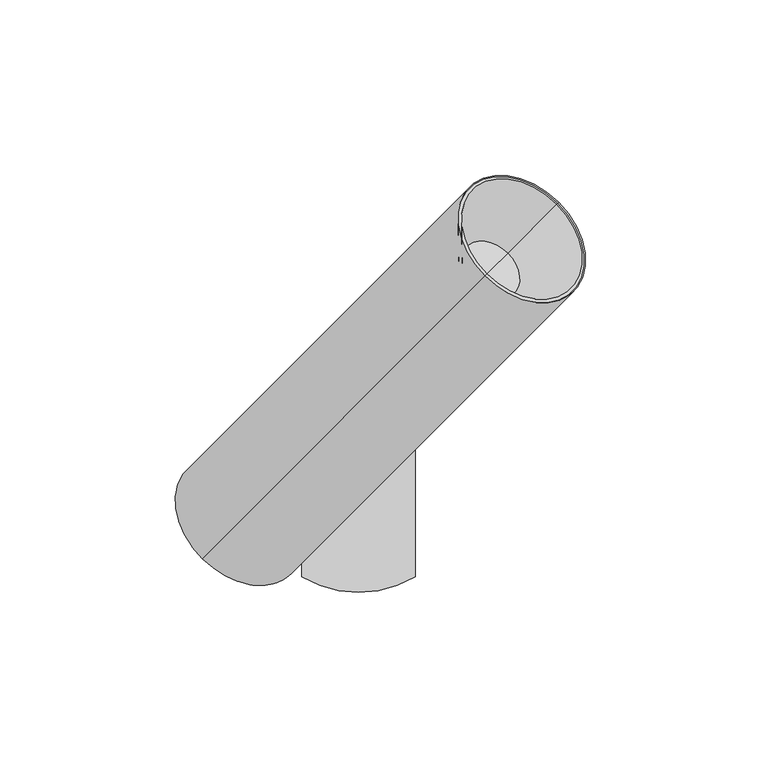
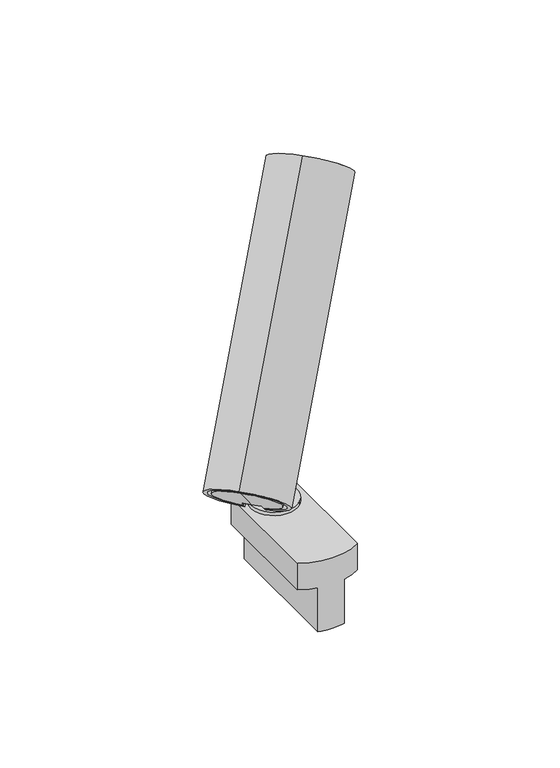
"""IFC4 building model written with IfcOpenShell, lengths in millimetres: light fixture geometry, PIPES T XS : 490lm 7,8W 930 38°."""

from ifc_helpers import new_model, si_unit, point, frame, frame_2d, origin, origin_2d, place, context, project, spatial, polyline, circle_curve, trimmed, segment, composite_curve, outline, extrude, source, transform, mapped, element, save
from ifc_brep_helpers import plane_surface, cylinder_surface, revolved_surface, advanced_brep


def light_fixture_d9bcc872(model_context):
    return source(origin(), model_context, "Body", "SolidModel", [
        extrude(outline(composite_curve([segment(polyline([(-39.7303383, 0.0), (-39.7303383, 7.9999999), (-36.7303383, 7.9999999), (-36.7303383, 10.0), (21.31827, 10.0), (21.31827, 2.0000001)]), True, "CONTINUOUS"), segment(trimmed(circle_curve(frame_2d((15.691322, 2.0000001)), 5.626948), [point((21.31827, 2.0000001))], [point((15.691322, -3.626948))], False, "CARTESIAN"), True, "CONTINUOUS"), segment(polyline([(15.691322, -3.626948), (9.8735653, -3.626948)]), True, "CONTINUOUS"), segment(trimmed(circle_curve(frame_2d((17.7182036, 2.2388678)), 9.7952104), [point((9.8735653, -3.626948))], [point((8.1822916, 0.0))], False, "CARTESIAN"), True, "CONTINUOUS"), segment(polyline([(8.1822916, 0.0), (-39.7303383, 0.0)]), True, "CONTINUOUS")], self_intersect=False)), frame((0.0, -7.0710678, 56.5303383), z_axis=(-0.7071067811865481, 0.707106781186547, 0.0), x_axis=(0.0, 0.0, 1.0)), (0.0, 0.0, 1.0), 10.0),
        extrude(outline(composite_curve([segment(trimmed(circle_curve(origin_2d(), 12.5), [point((8.8388348, -8.8388348))], [point((-8.8388348, 8.8388348))], False, "CARTESIAN"), True, "CONTINUOUS"), segment(trimmed(circle_curve(origin_2d(), 12.5), [point((-8.8388348, 8.8388348))], [point((8.8388348, -8.8388348))], False, "CARTESIAN"), True, "CONTINUOUS")], self_intersect=False)), frame((0.0, 0.0, 15.0), z_axis=(0.0, 0.0, 1.0), x_axis=(1.0, 0.0, 0.0)), (0.0, 0.0, 1.0), 1.8),
        advanced_brep(
        [(-7.1153658, 15.2862846, -25.0), (7.1153658, 15.2862846, -25.0), (7.1153658, -53.3498174, -25.0), (-7.1153658, -53.3498174, -25.0), (-16.1153658, -49.7317664, 15.0), (16.1153658, -49.7317664, 15.0), (16.1153658, 11.6682336, 15.0), (-16.1153658, 11.6682336, 15.0), (-16.1153658, 11.6682336, 0.0), (-16.1153658, -49.7317664, 0.0), (16.1153658, 11.6682336, 0.0), (7.1153658, 15.2862846, 0.0), (-7.1153658, 15.2862846, 0.0), (16.1153658, -49.7317664, 0.0), (-7.1153658, -53.3498174, 0.0), (7.1153658, -53.3498174, 0.0)],
        [
            (0, 1, circle_curve(frame((0.0, -15.4162786, -25.0), z_axis=(0.0, 0.0, -1.0), x_axis=(1.0, 0.0, 0.0)), 31.5162786)),
            (1, 2),
            (2, 3, circle_curve(frame((0.0, -22.6472542, -25.0), z_axis=(0.0, 0.0, -1.0), x_axis=(1.0, 0.0, 0.0)), 31.5162786)),
            (3, 0),
            (4, 5, circle_curve(frame((0.0, -22.6472542, 15.0), z_axis=(0.0, 0.0, 1.0), x_axis=(1.0, 0.0, 0.0)), 31.5162786)),
            (5, 6),
            (6, 7, circle_curve(frame((0.0, -15.4162786, 15.0), z_axis=(0.0, 0.0, 1.0), x_axis=(1.0, 0.0, 0.0)), 31.5162786)),
            (7, 4),
            (7, 8),
            (8, 9),
            (9, 4),
            (6, 10),
            (10, 11, circle_curve(frame((0.0, -15.4162786, 0.0), z_axis=(0.0, 0.0, 1.0), x_axis=(1.0, 0.0, 0.0)), 31.5162786)),
            (11, 1),
            (0, 12),
            (12, 8, circle_curve(frame((0.0, -15.4162786, 0.0), z_axis=(0.0, 0.0, 1.0), x_axis=(1.0, 0.0, 0.0)), 31.5162786)),
            (5, 13),
            (13, 10),
            (9, 14, circle_curve(frame((0.0, -22.6472542, 0.0), z_axis=(0.0, 0.0, 1.0), x_axis=(1.0, 0.0, 0.0)), 31.5162786)),
            (14, 3),
            (2, 15),
            (15, 13, circle_curve(frame((0.0, -22.6472542, 0.0), z_axis=(0.0, 0.0, 1.0), x_axis=(1.0, 0.0, 0.0)), 31.5162786)),
            (12, 14),
            (15, 11),
        ],
        [
            plane_surface(frame((-16.1153658, 11.6883244, -25.0), z_axis=(0.0, 0.0, -1.0), x_axis=(0.0, -1.0, 0.0))),
            plane_surface(frame((-16.1153658, 11.6883244, 15.0), z_axis=(0.0, 0.0, 1.0), x_axis=(0.0, 1.0, 0.0))),
            plane_surface(frame((-16.1153658, -49.7317664, 15.0), z_axis=(-1.0, 0.0, 0.0), x_axis=(0.0, 0.0, -1.0))),
            cylinder_surface(frame((0.0, -15.4162786, -25.0), z_axis=(0.0, 0.0, 1.0), x_axis=(1.0, 0.0, 0.0)), 31.5162786),
            plane_surface(frame((16.1153658, 11.6682336, 15.0), z_axis=(1.0, 0.0, 0.0), x_axis=(0.0, 0.0, -1.0))),
            cylinder_surface(frame((0.0, -22.6472542, -25.0), z_axis=(0.0, 0.0, 1.0), x_axis=(1.0, 0.0, 0.0)), 31.5162786),
            plane_surface(frame((-7.1153658, -58.6979838, 0.0), z_axis=(0.0, 0.0, -1.0), x_axis=(-1.0, 0.0, 0.0))),
            plane_surface(frame((-7.1153658, 21.3020162, 0.0), z_axis=(-1.0, 0.0, 0.0), x_axis=(0.0, 0.0, -1.0))),
            plane_surface(frame((7.1153658, 11.6883244, 0.0), z_axis=(0.0, 0.0, -1.0), x_axis=(0.0, 1.0, 0.0))),
            plane_surface(frame((7.1153658, -58.6979838, 0.0), z_axis=(1.0, 0.0, 0.0), x_axis=(0.0, 0.0, -1.0))),
        ],
        [
            (0, [[1, 2, 3, 4]]),
            (1, [[5, 6, 7, 8]]),
            (2, [[9, 10, 11, -8]]),
            (3, [[12, 13, 14, -1, 15, 16, -9, -7]]),
            (4, [[17, 18, -12, -6]]),
            (5, [[-11, 19, 20, -3, 21, 22, -17, -5]]),
            (6, [[-19, -10, -16, 23]]),
            (7, [[-15, -4, -20, -23]]),
            (8, [[-13, -18, -22, 24]]),
            (9, [[-21, -2, -14, -24]]),
        ],
    ),
        advanced_brep(
        [(3.5355339, -3.5355339, 80.0710678), (8.2335729, 1.1625051, 73.4270373), (-20.2664271, -27.3374949, 33.1219508), (-21.2993147, -28.3703825, 34.5826745), (-18.2993147, -25.3703825, 38.8253152), (-21.9644661, -29.0355339, 44.008622), (-3.5355339, 3.5355339, 80.0710678), (-29.0355339, -21.9644661, 44.008622), (-25.3703825, -18.2993147, 38.8253152), (-28.3703825, -21.2993147, 34.5826745), (-27.3374949, -20.2664271, 33.1219508), (1.1625051, 8.2335729, 73.4270373), (-25.5, -25.5, 44.008622), (5.0, 5.0, 73.0), (57.0, 57.0, 146.5391052), (-44.5, -44.5, 62.3933983), (36.0, 36.0, 176.2375901), (-43.5, -43.5, 60.9791847), (-40.5, -40.5, 65.2218254), (-31.0, -31.0, 51.7867966), (32.25, 32.25, 155.37794), (37.25, 37.25, 148.3068722), (42.25, 42.25, 141.2358044)],
        [
            (0, 1),
            (1, 2),
            (2, 3),
            (3, 4),
            (4, 5),
            (5, 0),
            (6, 7),
            (7, 8),
            (8, 9),
            (9, 10),
            (10, 11),
            (11, 6),
            (5, 12),
            (12, 7),
            (6, 0),
            (11, 13, circle_curve(frame((-5.5, -5.5, 87.8492424), z_axis=(-0.5000000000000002, -0.4999999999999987, -0.7071067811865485), x_axis=(0.49999999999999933, 0.5000000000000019, -0.7071067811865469)), 21.0)),
            (13, 1, circle_curve(frame((-5.5, -5.5, 87.8492424), z_axis=(-0.5000000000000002, -0.4999999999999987, -0.7071067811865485), x_axis=(0.49999999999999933, 0.5000000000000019, -0.7071067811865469)), 21.0)),
            (14, 13),
            (10, 15, circle_curve(frame((-34.0, -34.0, 47.5441559), z_axis=(0.5000000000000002, 0.4999999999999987, 0.7071067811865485), x_axis=(0.49999999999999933, 0.5000000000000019, -0.7071067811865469)), 21.0)),
            (15, 16),
            (16, 14, circle_curve(frame((46.5, 46.5, 161.3883476), z_axis=(-0.5000000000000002, -0.4999999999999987, -0.7071067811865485), x_axis=(0.49999999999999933, 0.5000000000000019, -0.7071067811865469)), 21.0)),
            (15, 2, circle_curve(frame((-34.0, -34.0, 47.5441559), z_axis=(0.5000000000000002, 0.4999999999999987, 0.7071067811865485), x_axis=(0.49999999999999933, 0.5000000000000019, -0.7071067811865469)), 21.0)),
            (14, 16, circle_curve(frame((46.5, 46.5, 161.3883476), z_axis=(-0.5000000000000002, -0.4999999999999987, -0.7071067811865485), x_axis=(0.49999999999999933, 0.5000000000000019, -0.7071067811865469)), 21.0)),
            (9, 17, circle_curve(frame((-34.0, -34.0, 47.5441559), z_axis=(0.5000000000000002, 0.4999999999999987, 0.7071067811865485), x_axis=(0.49999999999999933, 0.5000000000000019, -0.7071067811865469)), 19.0)),
            (17, 15),
            (17, 3, circle_curve(frame((-34.0, -34.0, 47.5441559), z_axis=(0.5000000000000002, 0.4999999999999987, 0.7071067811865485), x_axis=(0.49999999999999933, 0.5000000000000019, -0.7071067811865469)), 19.0)),
            (8, 18, circle_curve(frame((-31.0, -31.0, 51.7867966), z_axis=(0.5000000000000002, 0.4999999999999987, 0.7071067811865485), x_axis=(0.49999999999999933, 0.5000000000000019, -0.7071067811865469)), 19.0)),
            (18, 17),
            (18, 4, circle_curve(frame((-31.0, -31.0, 51.7867966), z_axis=(0.5000000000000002, 0.4999999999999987, 0.7071067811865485), x_axis=(0.49999999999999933, 0.5000000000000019, -0.7071067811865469)), 19.0)),
            (12, 19),
            (19, 18),
            (20, 21),
            (21, 22),
            (22, 20, circle_curve(frame((37.25, 37.25, 148.3068722), z_axis=(0.5000000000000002, 0.4999999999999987, 0.7071067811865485), x_axis=(0.49999999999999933, 0.5000000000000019, -0.7071067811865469)), 10.0)),
            (20, 22, circle_curve(frame((37.25, 37.25, 148.3068722), z_axis=(0.5000000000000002, 0.4999999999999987, 0.7071067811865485), x_axis=(0.49999999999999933, 0.5000000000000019, -0.7071067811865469)), 10.0)),
            (16, 20),
            (22, 14),
        ],
        [
            plane_surface(frame((3.5355339, -3.5355339, 80.0710678), z_axis=(-0.7071067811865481, 0.707106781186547, 0.0), x_axis=(0.5000000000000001, 0.4999999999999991, 0.7071067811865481))),
            plane_surface(frame((-3.5355339, 3.5355339, 80.0710678), z_axis=(0.7071067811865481, -0.707106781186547, 0.0), x_axis=(-0.5000000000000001, -0.4999999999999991, -0.7071067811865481))),
            plane_surface(frame((-3.5355339, 3.5355339, 80.0710678), z_axis=(0.5000000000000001, 0.5000000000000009, -0.707106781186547), x_axis=(0.7071067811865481, -0.707106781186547, 0.0))),
            plane_surface(frame((6.4644661, 13.5355339, 65.9289322), z_axis=(-0.5000000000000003, -0.49999999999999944, -0.7071067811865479), x_axis=(0.7071067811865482, -0.7071067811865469, 0.0))),
            cylinder_surface(frame((-38.2261905, -38.2261905, 41.56742), z_axis=(-0.5000000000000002, -0.4999999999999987, -0.7071067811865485), x_axis=(0.49999999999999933, 0.5000000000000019, -0.7071067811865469)), 21.0),
            plane_surface(frame((-34.0, -34.0, 47.5441559), z_axis=(-0.5, -0.499999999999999, -0.7071067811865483), x_axis=(0.4999999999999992, 0.5000000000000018, -0.7071067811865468))),
            revolved_surface(polyline([(-24.50000002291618, -24.50000002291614, 34.109127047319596), (-21.499999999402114, -21.499999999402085, 38.35176776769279)]), (-38.2261905, -38.2261905, 41.56742), (-0.5000000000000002, -0.4999999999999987, -0.7071067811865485)),
            revolved_surface(polyline([(-24.50000002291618, -24.50000002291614, 34.109127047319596), (-21.49999999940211, -21.499999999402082, 38.3517677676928)]), (-38.2261905, -38.2261905, 41.56742), (-0.5000000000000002, -0.4999999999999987, -0.7071067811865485)),
            plane_surface(frame((-31.0, -31.0, 51.7867966), z_axis=(-0.5, -0.499999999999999, -0.7071067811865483), x_axis=(0.4999999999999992, 0.5000000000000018, -0.7071067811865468))),
            plane_surface(frame((37.25, 37.25, 148.3068722), z_axis=(0.5, 0.499999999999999, 0.7071067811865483), x_axis=(0.4999999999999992, 0.5000000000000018, -0.7071067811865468))),
            revolved_surface(polyline([(42.25, 42.25, 141.2358044), (57.0, 57.0, 146.5391052)]), (-38.2261905, -38.2261905, 41.56742), (-0.5000000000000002, -0.4999999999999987, -0.7071067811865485)),
        ],
        [
            (0, [[1, 2, 3, 4, 5, 6]]),
            (1, [[7, 8, 9, 10, 11, 12]]),
            (2, [[-6, 13, 14, -7, 15]]),
            (3, [[-12, 16, 17, -1, -15]]),
            (4, [[18, -16, -11, 19, 20, 21]]),
            (4, [[22, -2, -17, -18, 23, -20]]),
            (5, [[-19, -10, 24, 25]]),
            (5, [[26, -3, -22, -25]]),
            (6, [[-24, -9, 27, 28]]),
            (7, [[29, -4, -26, -28]]),
            (8, [[-27, -8, -14, 30, 31]]),
            (8, [[-30, -13, -5, -29, -31]]),
            (9, [[32, 33, 34]]),
            (9, [[-32, 35, -33]]),
            (10, [[36, -34, 37, -21]]),
            (10, [[-37, -35, -36, -23]]),
        ],
    ),
        advanced_brep(
        [(-23.9644661, -31.0355339, 41.1801948), (-21.3437531, -28.4148209, 37.473947), (-22.3437531, -29.4148209, 36.0597335), (-24.9644661, -32.0355339, 39.7659813), (-32.0355339, -24.9644661, 39.7659813), (-29.4148209, -22.3437531, 36.0597335), (-28.4148209, -21.3437531, 37.473947), (-31.0355339, -23.9644661, 41.1801948), (-28.5, -28.5, 39.7659813), (-27.5, -27.5, 41.1801948), (-33.0, -33.0, 48.9583694), (-41.4968217, -41.4968217, 60.9746899), (-42.4968217, -42.4968217, 59.5604764), (-34.0, -34.0, 47.5441559)],
        [
            (0, 1),
            (1, 2),
            (2, 3),
            (3, 0),
            (4, 5),
            (5, 6),
            (6, 7),
            (7, 4),
            (3, 8),
            (8, 4),
            (7, 9),
            (9, 0),
            (10, 9),
            (6, 11, circle_curve(frame((-33.0, -33.0, 48.9583694), z_axis=(0.4999999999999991, 0.4999999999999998, 0.7071067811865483), x_axis=(0.4999999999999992, 0.5000000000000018, -0.7071067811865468)), 16.9936434)),
            (11, 10),
            (11, 1, circle_curve(frame((-33.0, -33.0, 48.9583694), z_axis=(0.4999999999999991, 0.4999999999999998, 0.7071067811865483), x_axis=(0.4999999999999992, 0.5000000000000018, -0.7071067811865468)), 16.9936434)),
            (5, 12, circle_curve(frame((-34.0, -34.0, 47.5441559), z_axis=(0.4999999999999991, 0.4999999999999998, 0.7071067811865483), x_axis=(0.4999999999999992, 0.5000000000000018, -0.7071067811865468)), 16.9936434)),
            (12, 11),
            (12, 2, circle_curve(frame((-34.0, -34.0, 47.5441559), z_axis=(0.4999999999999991, 0.4999999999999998, 0.7071067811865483), x_axis=(0.4999999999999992, 0.5000000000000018, -0.7071067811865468)), 16.9936434)),
            (8, 13),
            (13, 12),
        ],
        [
            plane_surface(frame((3.5355339, -3.5355339, 80.0710678), z_axis=(-0.7071067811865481, 0.707106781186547, 0.0), x_axis=(0.5000000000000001, 0.4999999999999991, 0.7071067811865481))),
            plane_surface(frame((-3.5355339, 3.5355339, 80.0710678), z_axis=(0.7071067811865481, -0.707106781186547, 0.0), x_axis=(-0.5000000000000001, -0.4999999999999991, -0.7071067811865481))),
            plane_surface(frame((-3.5355339, 3.5355339, 80.0710678), z_axis=(0.5000000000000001, 0.5000000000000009, -0.707106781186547), x_axis=(0.7071067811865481, -0.707106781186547, 0.0))),
            plane_surface(frame((-33.0, -33.0, 48.9583694), z_axis=(0.5, 0.499999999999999, 0.7071067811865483), x_axis=(0.4999999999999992, 0.5000000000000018, -0.7071067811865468))),
            cylinder_surface(frame((32.0238095, 32.0238095, 140.9159227), z_axis=(-0.4999999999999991, -0.4999999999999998, -0.7071067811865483), x_axis=(0.4999999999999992, 0.5000000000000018, -0.7071067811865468)), 16.9936434),
            plane_surface(frame((-34.0, -34.0, 47.5441559), z_axis=(-0.5, -0.499999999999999, -0.7071067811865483), x_axis=(0.4999999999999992, 0.5000000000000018, -0.7071067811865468))),
        ],
        [
            (0, [[1, 2, 3, 4]]),
            (1, [[5, 6, 7, 8]]),
            (2, [[9, 10, -8, 11, 12, -4]]),
            (3, [[13, -11, -7, 14, 15]]),
            (3, [[16, -1, -12, -13, -15]]),
            (4, [[-14, -6, 17, 18]]),
            (4, [[19, -2, -16, -18]]),
            (5, [[-17, -5, -10, 20, 21]]),
            (5, [[-20, -9, -3, -19, -21]]),
        ],
    ),
        advanced_brep(
        [(33.034412, 33.034412, 155.6828275), (37.75, 37.75, 149.013979), (42.465588, 42.465588, 142.3451304), (36.5817093, 36.5817093, 175.4149289), (56.4182907, 56.4182907, 147.3617664), (36.0, 36.0, 176.2375901), (57.0, 57.0, 146.5391052), (32.25, 32.25, 155.37794), (42.25, 42.25, 141.2358044), (37.25, 37.25, 148.3068722)],
        [
            (0, 1),
            (1, 2),
            (2, 0, circle_curve(frame((37.75, 37.75, 149.013979), z_axis=(0.5000000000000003, 0.49999999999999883, 0.7071067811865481), x_axis=(0.4999999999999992, 0.5000000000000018, -0.7071067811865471)), 9.431176)),
            (0, 2, circle_curve(frame((37.75, 37.75, 149.013979), z_axis=(0.5000000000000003, 0.49999999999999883, 0.7071067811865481), x_axis=(0.4999999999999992, 0.5000000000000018, -0.7071067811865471)), 9.431176)),
            (3, 0),
            (2, 4),
            (4, 3, circle_curve(frame((46.5, 46.5, 161.3883476), z_axis=(0.5000000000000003, 0.49999999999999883, 0.7071067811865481), x_axis=(0.4999999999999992, 0.5000000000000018, -0.7071067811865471)), 19.8365814)),
            (3, 4, circle_curve(frame((46.5, 46.5, 161.3883476), z_axis=(0.5000000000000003, 0.49999999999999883, 0.7071067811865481), x_axis=(0.4999999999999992, 0.5000000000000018, -0.7071067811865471)), 19.8365814)),
            (5, 3),
            (4, 6),
            (6, 5, circle_curve(frame((46.5, 46.5, 161.3883476), z_axis=(0.5000000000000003, 0.49999999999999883, 0.7071067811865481), x_axis=(0.4999999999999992, 0.5000000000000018, -0.7071067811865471)), 21.0)),
            (5, 6, circle_curve(frame((46.5, 46.5, 161.3883476), z_axis=(0.5000000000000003, 0.49999999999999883, 0.7071067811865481), x_axis=(0.4999999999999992, 0.5000000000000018, -0.7071067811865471)), 21.0)),
            (7, 5),
            (6, 8),
            (8, 7, circle_curve(frame((37.25, 37.25, 148.3068722), z_axis=(0.5000000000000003, 0.49999999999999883, 0.7071067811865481), x_axis=(0.4999999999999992, 0.5000000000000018, -0.7071067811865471)), 10.0)),
            (7, 8, circle_curve(frame((37.25, 37.25, 148.3068722), z_axis=(0.5000000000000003, 0.49999999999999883, 0.7071067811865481), x_axis=(0.4999999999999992, 0.5000000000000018, -0.7071067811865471)), 10.0)),
            (9, 7),
            (8, 9),
        ],
        [
            plane_surface(frame((37.75, 37.75, 149.013979), z_axis=(0.5000000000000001, 0.4999999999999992, 0.7071067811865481), x_axis=(0.4999999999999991, 0.5000000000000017, -0.707106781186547))),
            revolved_surface(polyline([(42.465588, 42.465588, 142.3451304), (56.4182907, 56.4182907, 147.3617664)]), (-48.2261905, -48.2261905, 27.4252844), (-0.5000000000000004, -0.49999999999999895, -0.7071067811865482)),
            plane_surface(frame((46.5, 46.5, 161.3883476), z_axis=(0.5000000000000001, 0.4999999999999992, 0.7071067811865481), x_axis=(0.4999999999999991, 0.5000000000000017, -0.707106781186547))),
            revolved_surface(polyline([(57.0, 57.0, 146.5391052), (42.25, 42.25, 141.2358044)]), (-48.2261905, -48.2261905, 27.4252844), (-0.5000000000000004, -0.49999999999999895, -0.7071067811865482)),
            plane_surface(frame((37.25, 37.25, 148.3068722), z_axis=(-0.5000000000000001, -0.4999999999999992, -0.7071067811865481), x_axis=(0.4999999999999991, 0.5000000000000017, -0.707106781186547))),
        ],
        [
            (0, [[1, 2, 3]]),
            (0, [[-2, -1, 4]]),
            (1, [[5, -3, 6, 7]]),
            (1, [[-6, -4, -5, 8]]),
            (2, [[9, -7, 10, 11]]),
            (2, [[-10, -8, -9, 12]]),
            (3, [[13, -11, 14, 15]]),
            (3, [[-14, -12, -13, 16]]),
            (4, [[17, -15, 18]]),
            (4, [[-18, -16, -17]]),
        ],
    ),
    ])


if __name__ == "__main__":
    model = new_model("IFC4")
    model_context = context("Model", 3, world=origin())
    ifc_project = project(units=[si_unit("LENGTHUNIT", "METRE", prefix="MILLI")], contexts=[model_context])
    site = spatial("IfcSite", under=ifc_project)
    building = spatial("IfcBuilding", under=site)
    placement = place(None, origin())
    light_fixture_shape = light_fixture_d9bcc872(model_context)
    element("IfcLightFixture", 1, ObjectType="PIPES T XS : 490lm 7,8W 930 38°", at=placement, inside=building, context=model_context, shape_type="MappedRepresentation", body=[
        mapped(light_fixture_shape, transform((0.0, 0.0, 0.0), x_axis=(1.0, 0.0, 0.0), y_axis=(0.0, 1.0, 0.0), z_axis=(0.0, 0.0, 1.0))),
    ])
    save(model, "model.ifc")
